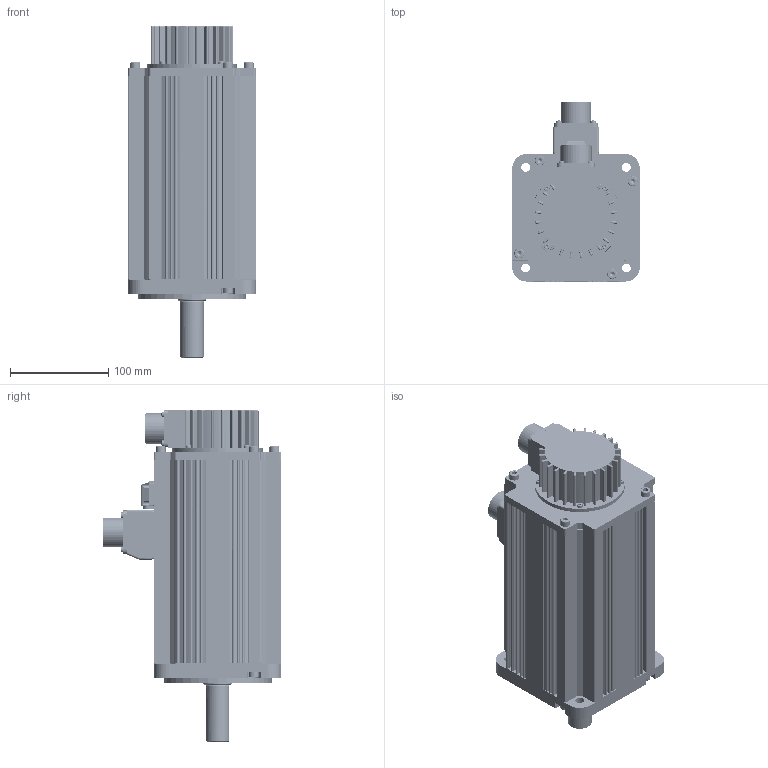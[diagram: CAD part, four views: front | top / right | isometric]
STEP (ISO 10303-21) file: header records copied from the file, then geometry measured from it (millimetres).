
FILE_DESCRIPTION((''),'2;1');
FILE_NAME('PH2-L13B230XXXX1A_ASM','2019-08-22T',('jiangfei6'),(''),'CREO PARAMETRIC BY PTC INC, 2015480','CREO PARAMETRIC BY PTC INC, 2015480','');
FILE_SCHEMA(('CONFIG_CONTROL_DESIGN'));
Products named in the file (20): 80Q0010301_AF0_1; 80D5006601_1; 80D2003101_1; 80D2003201_AF0_1_1; 80D2003201_AF0_1_2; 80D2003201_AF0_1_ASM; 80D2000901_1; 80G3000501_1; 80S6002801_1; 80S5000101_1; 80S6003601_1; 80G6000501_1; 80G3000901_1; MJ01-8033_1; MJ01-8035_1; MJ01-8038_1; MJ01-8042_1; MJ01-8041_1; R130-4KW-SHACHE_ASM_1_ASM; PH2-L13B230XXXX1A_ASM
Assembly tree (38 placements, depth 4):
  PH2-L13B230XXXX1A_ASM
    R130-4KW-SHACHE_ASM_1_ASM
      80Q0010301_AF0_1
      80D5006601_1
      80D2003101_1
      80D2003201_AF0_1_ASM
        80D2003201_AF0_1_1
        80D2003201_AF0_1_2
      80D2000901_1
      80G3000501_1
      80S6002801_1
      80S5000101_1
      80S6003601_1
      80G6000501_1
      80G3000901_1
      MJ01-8033_1  x4
      MJ01-8035_1  x4
      MJ01-8038_1  x8
      MJ01-8042_1  x4
      MJ01-8041_1  x4
Bounding box: 130 x 182.15 x 338.05 mm (x, y, z)
Volume: 887606.1 mm3; surface area: 438099.8 mm2
Topology: 35 solids, 66 shells, 6541 faces, 14894 edges, 8421 vertices
Faces by surface type: cone 2741, cylinder 2552, plane 1098, sphere 108, torus 24, bspline 18
Entity records: 89214 total; most frequent: CARTESIAN_POINT 17402, DIRECTION 16084, ORIENTED_EDGE 14324, EDGE_CURVE 7232, AXIS2_PLACEMENT_3D 6178, VERTEX_POINT 4488, VECTOR 3728, LINE 3728
